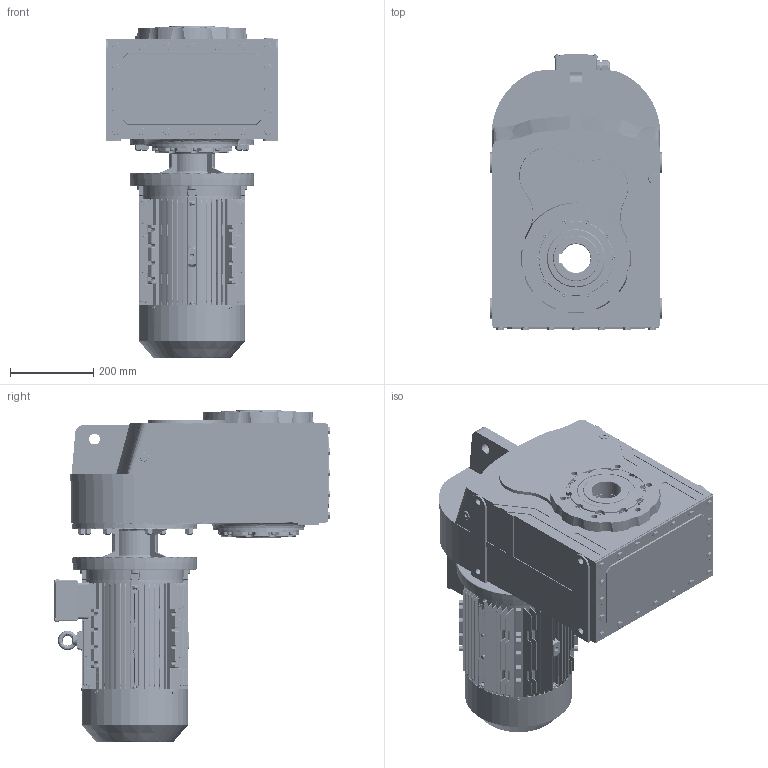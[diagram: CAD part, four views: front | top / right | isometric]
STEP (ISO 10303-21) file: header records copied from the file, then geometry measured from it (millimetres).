
FILE_DESCRIPTION (( 'STEP AP203' ), '1' );
FILE_NAME ('DV_673_0_MX3-132M.STEP', '2018-11-15T14:49:44', ( '' ), ( '' ), 'SwSTEP 2.0', 'SolidWorks 2012', '' );
FILE_SCHEMA (( 'CONFIG_CONTROL_DESIGN' ));
Products named in the file (25): MX3-132M_B5; DV_673_0_MX3-132M; cross recessed pan head screws gb_GB_CROSS_SCREWS_TYPE1 M5X12-12  H type-N_1; circlips for shaft--type a large gb_GB_CONNECTING_PIECE_RING_RRA 28; hex nuts, style 1-grades ab gb_GB_FASTENER_NUT_SNAB1 M8-N; hexagon flange head tapping screws gb_GB_SQUARE_AND_HEXAGON_TYPE137 ST4.2X9.5 C-N; hexagon socket head cap screws gb_GB_FASTENER_SCREWS_HSHCS M8X40-N_1; 132M B5ﾂ-ｩﾃ; eyebolts gb_GB_FASTENER_SCREWS_FRS M10-N_1; spring lock washers--normal type gb_GB_FASTENER_WASHER_SW 8_1; hexagon socket head cap screws gb_GB_FASTENER_SCREWS_HSHCS M8X45-N; plain parallel keys_GB_CONNECTING_PIECE_KEYS_CSK 10X70_1; -戌呲25; ﾋ-ﾀﾔ40X58X7; 132〩仁佞怔; 132〩仁佞蹉峔; 132ÀþiÍ; 132 瞬++-4; 132M 俓; 132M B5+ｷ+ﾃ; deep groove ball bearings gb_Rolling bearings 6308 GB 276-94_1; 132B3ﾂ-ｩﾃ; ML60A_Varsayìlan_1; 53132B5_Varsayìlan_1; D673_Varsayìlan_1
Assembly tree (52 placements, depth 3):
  DV_673_0_MX3-132M
    D673_Varsayìlan_1
    53132B5_Varsayìlan_1
    ML60A_Varsayìlan_1
    MX3-132M_B5
      132M B5+ｷ+ﾃ
      132B3ﾂ-ｩﾃ
      132M 俓
      deep groove ball bearings gb_Rolling bearings 6308 GB 276-94_1  x2
      132 瞬++-4
      132ÀþiÍ
      132〩仁佞蹉峔
      132〩仁佞怔
      -戌呲25  x2
      ﾋ-ﾀﾔ40X58X7
      plain parallel keys_GB_CONNECTING_PIECE_KEYS_CSK 10X70_1
      eyebolts gb_GB_FASTENER_SCREWS_FRS M10-N_1
      132M B5ﾂ-ｩﾃ
      hexagon socket head cap screws gb_GB_FASTENER_SCREWS_HSHCS M8X45-N  x4
      spring lock washers--normal type gb_GB_FASTENER_WASHER_SW 8_1  x8
      hex nuts, style 1-grades ab gb_GB_FASTENER_NUT_SNAB1 M8-N  x7
      hexagon socket head cap screws gb_GB_FASTENER_SCREWS_HSHCS M8X40-N_1  x5
      circlips for shaft--type a large gb_GB_CONNECTING_PIECE_RING_RRA 28
      hexagon flange head tapping screws gb_GB_SQUARE_AND_HEXAGON_TYPE137 ST4.2X9.5 C-N  x4
      cross recessed pan head screws gb_GB_CROSS_SCREWS_TYPE1 M5X12-12  H type-N_1  x4
Bounding box: 412 x 665.4 x 799.12 mm (x, y, z)
Volume: 59533715.5 mm3; surface area: 3690909 mm2
Topology: 56 solids, 58 shells, 9192 faces, 23717 edges, 14537 vertices
Faces by surface type: plane 3191, cylinder 2345, bspline 2162, cone 974, torus 382, sphere 138
Entity records: 340732 total; most frequent: CARTESIAN_POINT 148511, ORIENTED_EDGE 43212, DIRECTION 34103, EDGE_CURVE 21606, VERTEX_POINT 13364, AXIS2_PLACEMENT_3D 12570, EDGE_LOOP 9276, LINE 8963
